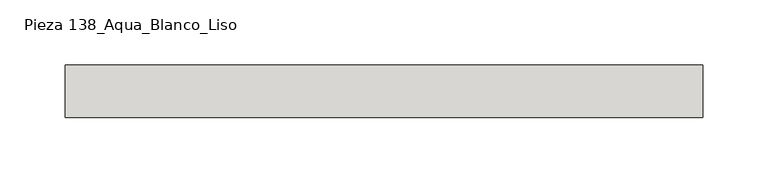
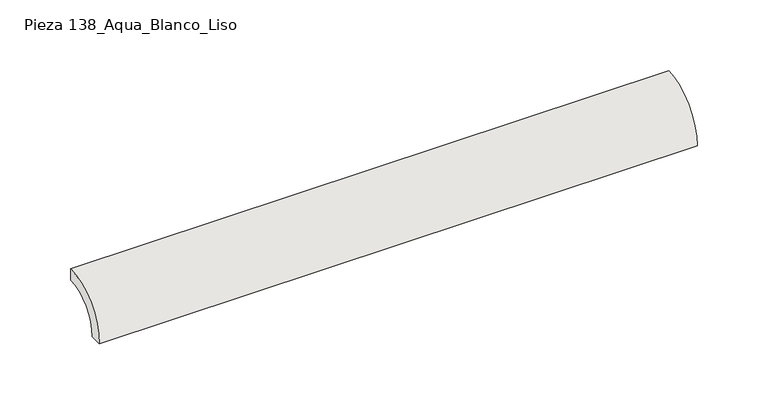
"""IFC4 building model written with IfcOpenShell, lengths in millimetres: slab geometry, ROSA GRES_138 : Pieza 138_Aqua_Blanco_Liso."""

from ifc_helpers import new_model, si_unit, point, frame, frame_2d, origin, origin_2d, place, context, project, spatial, polyline, circle_curve, trimmed, segment, composite_curve, outline, extrude, source, transform, mapped, element, save


def pieza_138_aqua_blanco_liso_1ed27414(model_context):
    return source(origin(), model_context, "Body", "SweptSolid", [
        extrude(outline(composite_curve([segment(polyline([(0.0, 40.0), (0.0, 30.0265886)]), True, "CONTINUOUS"), segment(trimmed(circle_curve(frame_2d((-0.0044453, 0.0044453)), 30.0221435), [point((0.0, 30.0265886))], [point((-30.0265886, 0.0))], True, "CARTESIAN"), True, "CONTINUOUS"), segment(polyline([(-30.0265886, 0.0), (-40.0, 0.0)]), True, "CONTINUOUS"), segment(trimmed(circle_curve(origin_2d(), 40.0), [point((-40.0, 0.0))], [point((0.0, 40.0))], False, "CARTESIAN"), True, "CONTINUOUS")], self_intersect=False)), frame((0.0, 0.0, 0.0), z_axis=(1.0, 0.0, 0.0), x_axis=(0.0, 1.0, 0.0)), (0.0, 0.0, 1.0), 486.4313979),
    ])


if __name__ == "__main__":
    model = new_model("IFC4")
    model_context = context("Model", 3, world=origin())
    ifc_project = project(units=[si_unit("LENGTHUNIT", "METRE", prefix="MILLI")], contexts=[model_context])
    site = spatial("IfcSite", under=ifc_project)
    building = spatial("IfcBuilding", under=site)
    placement = place(None, origin())
    pieza_138_aqua_blanco_liso_shape = pieza_138_aqua_blanco_liso_1ed27414(model_context)
    element("IfcSlab", 1, ObjectType="ROSA GRES_138 : Pieza 138_Aqua_Blanco_Liso", at=placement, inside=building, context=model_context, shape_type="MappedRepresentation", body=[
        mapped(pieza_138_aqua_blanco_liso_shape, transform((0.0, 0.0, 0.0), x_axis=(1.0, 0.0, 0.0), y_axis=(0.0, 1.0, 0.0), z_axis=(0.0, 0.0, 1.0))),
    ])
    save(model, "model.ifc")
